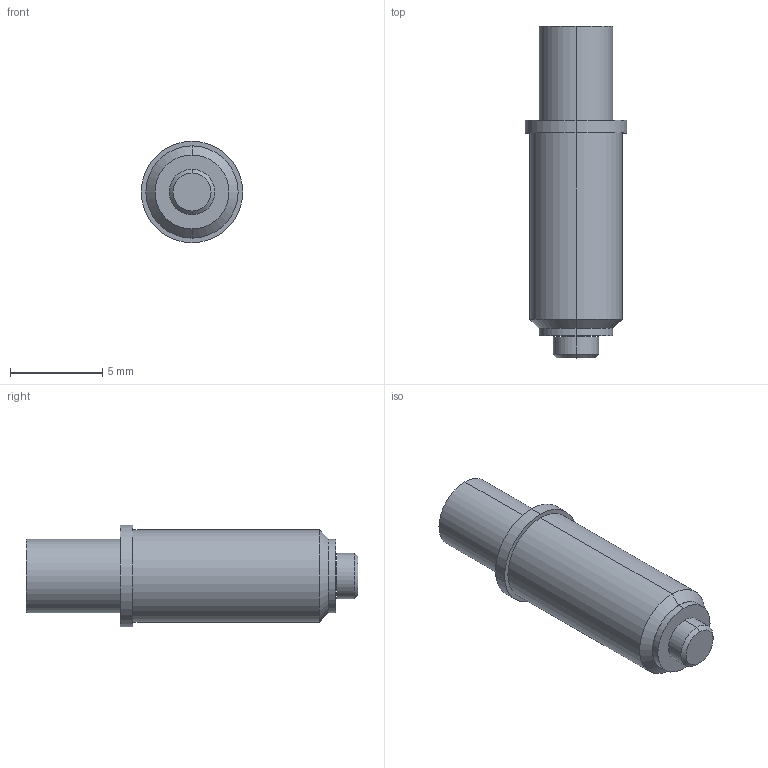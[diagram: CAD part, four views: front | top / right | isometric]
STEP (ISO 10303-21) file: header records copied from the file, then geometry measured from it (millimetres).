
FILE_DESCRIPTION((''),'2;1');
FILE_NAME('PRT0011','2023-06-02T10:10:19',('USER'),(''),'CREO PARAMETRIC BY PTC INC, 2020154','CREO PARAMETRIC BY PTC INC, 2020154','');
FILE_SCHEMA(('CONFIG_CONTROL_DESIGN'));
Length unit declared in the file: millimetre
Products named in the file (1): PRT0011
Bounding box: 5.5 x 18 x 5.5 mm (x, y, z)
Volume: 259.7 mm3; surface area: 351.6 mm2
Topology: 1 solids, 1 shells, 30 faces, 60 edges, 37 vertices
Faces by surface type: cylinder 14, plane 8, cone 8
Entity records: 816 total; most frequent: DIRECTION 154, CARTESIAN_POINT 125, ORIENTED_EDGE 116, AXIS2_PLACEMENT_3D 66, EDGE_CURVE 58, VERTEX_POINT 37, EDGE_LOOP 37, CIRCLE 36
